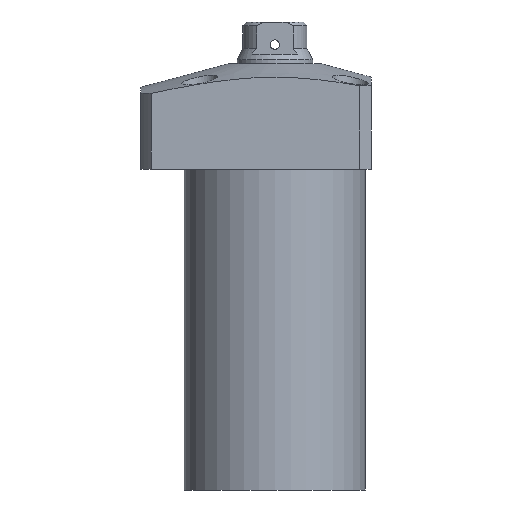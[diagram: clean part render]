
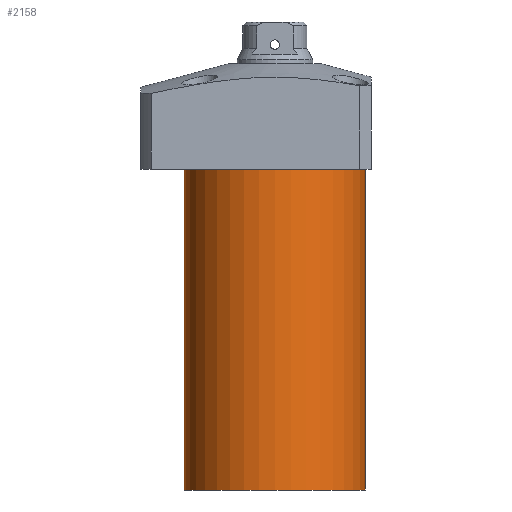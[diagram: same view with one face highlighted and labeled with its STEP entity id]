
A CAD part, front view. The second image highlights one B-rep face of the part: STEP entity #2158.
In plain terms, the highlighted cylindrical face has radius 24 mm (diameter 48 mm), a partial arc.
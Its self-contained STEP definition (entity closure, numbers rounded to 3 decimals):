
#13 = DIRECTION ( 'NONE',  ( 0., 0., -1. ) ) ;
#230 = CARTESIAN_POINT ( 'NONE',  ( 24., 0., -14. ) ) ;
#303 = DIRECTION ( 'NONE',  ( 1., 0., 0. ) ) ;
#337 = ORIENTED_EDGE ( 'NONE', *, *, #1718, .F. ) ;
#353 = CIRCLE ( 'NONE', #844, 24. ) ;
#373 = EDGE_CURVE ( 'NONE', #520, #1804, #482, .T. ) ;
#482 = LINE ( 'NONE', #2213, #1472 ) ;
#520 = VERTEX_POINT ( 'NONE', #2046 ) ;
#579 = DIRECTION ( 'NONE',  ( 0., 0., -1. ) ) ;
#600 = LINE ( 'NONE', #1464, #1277 ) ;
#799 = CIRCLE ( 'NONE', #1891, 24. ) ;
#844 = AXIS2_PLACEMENT_3D ( 'NONE', #1233, #13, #1679 ) ;
#895 = CARTESIAN_POINT ( 'NONE',  ( -24., 0., -14. ) ) ;
#904 = EDGE_LOOP ( 'NONE', ( #337, #1428, #2186, #1434 ) ) ;
#905 = CARTESIAN_POINT ( 'NONE',  ( -24., 0., -99. ) ) ;
#1056 = AXIS2_PLACEMENT_3D ( 'NONE', #1669, #2273, #303 ) ;
#1213 = VERTEX_POINT ( 'NONE', #905 ) ;
#1233 = CARTESIAN_POINT ( 'NONE',  ( 0., 0., -99. ) ) ;
#1238 = VERTEX_POINT ( 'NONE', #895 ) ;
#1277 = VECTOR ( 'NONE', #2078, 1000. ) ;
#1428 = ORIENTED_EDGE ( 'NONE', *, *, #1617, .F. ) ;
#1434 = ORIENTED_EDGE ( 'NONE', *, *, #1876, .T. ) ;
#1464 = CARTESIAN_POINT ( 'NONE',  ( -24., 0., -99. ) ) ;
#1472 = VECTOR ( 'NONE', #2030, 1000. ) ;
#1617 = EDGE_CURVE ( 'NONE', #520, #1213, #353, .T. ) ;
#1669 = CARTESIAN_POINT ( 'NONE',  ( 0., 0., -99. ) ) ;
#1679 = DIRECTION ( 'NONE',  ( -1., 0., 0. ) ) ;
#1718 = EDGE_CURVE ( 'NONE', #1213, #1238, #600, .T. ) ;
#1804 = VERTEX_POINT ( 'NONE', #230 ) ;
#1876 = EDGE_CURVE ( 'NONE', #1804, #1238, #799, .T. ) ;
#1891 = AXIS2_PLACEMENT_3D ( 'NONE', #2661, #579, #2033 ) ;
#1926 = FACE_OUTER_BOUND ( 'NONE', #904, .T. ) ;
#2030 = DIRECTION ( 'NONE',  ( 0., 0., 1. ) ) ;
#2033 = DIRECTION ( 'NONE',  ( 1., 0., 0. ) ) ;
#2046 = CARTESIAN_POINT ( 'NONE',  ( 24., 0., -99. ) ) ;
#2078 = DIRECTION ( 'NONE',  ( 0., 0., 1. ) ) ;
#2158 = ADVANCED_FACE ( 'NONE', ( #1926 ), #2591, .T. ) ;
#2186 = ORIENTED_EDGE ( 'NONE', *, *, #373, .T. ) ;
#2213 = CARTESIAN_POINT ( 'NONE',  ( 24., 0., -99. ) ) ;
#2273 = DIRECTION ( 'NONE',  ( 0., 0., 1. ) ) ;
#2591 = CYLINDRICAL_SURFACE ( 'NONE', #1056, 24. ) ;
#2661 = CARTESIAN_POINT ( 'NONE',  ( 0., 0., -14. ) ) ;
